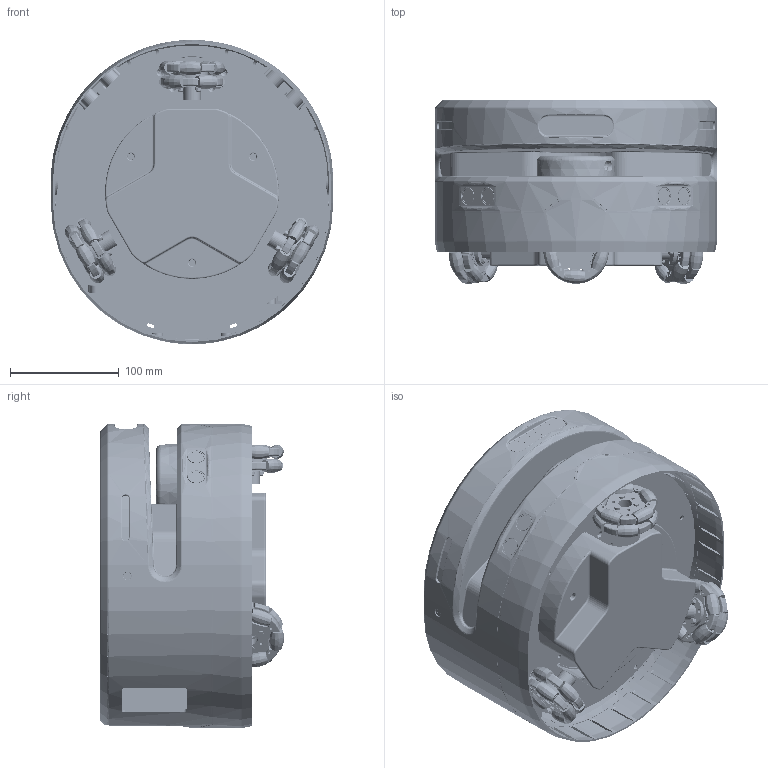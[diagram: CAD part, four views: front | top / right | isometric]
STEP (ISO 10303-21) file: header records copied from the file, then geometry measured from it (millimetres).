
FILE_DESCRIPTION (( 'STEP AP203' ), '1' );
FILE_NAME ('Gemini-O_忮綴耀倰恅璃_V1.0.STEP', '2024-07-01T08:17:12', ( '' ), ( '' ), 'SwSTEP 2.0', 'SolidWorks 2018', '' );
FILE_SCHEMA (( 'CONFIG_CONTROL_DESIGN' ));
Length unit declared in the file: millimetre
Products named in the file (29): asm_15W_MG540_motor_module_全向轮; User_Library-Amass_MR30-FB^J2_蛌諉啣(2)_蛌諉啣; hdmi諉芛; User_Library-Amass_MR30-FB^J3_蛌諉啣(2)_蛌諉啣; 閉汒疏耀輸; DC諉諳; mini_base_board_upper_1126; YiJia_LED_button_blue_M16mm; 菁欶; 60quanxiagnlun; J1^蛌諉啣(2)_蛌諉啣; Board^蛌諉啣(2)_蛌諉啣; asm_YiJia_LED_button_blue_M16mm_PCB; house耀倰; led_腑湍; Gemini-O_忮綴耀倰恅璃_V1.0; J3^蛌諉啣(2)_蛌諉啣; EAI_G7; 噩え; USB扜砉芛; usb諉諳; J2^蛌諉啣(2)_蛌諉啣; encoder; 萇講珆尨0421; 蛌諉啣; 蛌諉啣(2)^蛌諉啣; User_Library-Amass_MR30-FB^J1_蛌諉啣(2)_蛌諉啣; jetson_nano_扜砉芛; mini_base_board_under_全向轮_1126
Assembly tree (32 placements, depth 5):
  Gemini-O_忮綴耀倰恅璃_V1.0
    mini_base_board_under_全向轮_1126
    asm_15W_MG540_motor_module_全向轮  x3
      encoder
      60quanxiagnlun
    菁欶
    mini_base_board_upper_1126
    led_腑湍  x2
    噩え
    萇講珆尨0421
    asm_YiJia_LED_button_blue_M16mm_PCB
      YiJia_LED_button_blue_M16mm
    DC諉諳
    usb諉諳
    hdmi諉芛
    蛌諉啣
      蛌諉啣(2)^蛌諉啣
        J1^蛌諉啣(2)_蛌諉啣
          User_Library-Amass_MR30-FB^J1_蛌諉啣(2)_蛌諉啣
        J2^蛌諉啣(2)_蛌諉啣
          User_Library-Amass_MR30-FB^J2_蛌諉啣(2)_蛌諉啣
        J3^蛌諉啣(2)_蛌諉啣
          User_Library-Amass_MR30-FB^J3_蛌諉啣(2)_蛌諉啣
        Board^蛌諉啣(2)_蛌諉啣
    閉汒疏耀輸  x2
    USB扜砉芛
    jetson_nano_扜砉芛
    EAI_G7
    house耀倰
Bounding box: 260 x 169.24 x 280 mm (x, y, z)
Volume: 708383.9 mm3; surface area: 794833.5 mm2
Topology: 32 solids, 178 shells, 7575 faces, 22298 edges, 15031 vertices
Faces by surface type: bspline 3259, plane 2292, cylinder 1547, torus 239, cone 233, sphere 5
Full cylindrical faces by diameter (mm): 0.9 x12, 1 x14, 1.004 x1, 1.2 x4, 1.5 x10, 1.6 x15, 1.9 x9, 2 x11, 2.05 x2, 2.2 x4, 2.5 x98, 2.625 x4, 3 x2, 3.4 x15, 3.5 x21, 3.65 x1, 4 x6, 4.5 x8, 5 x1, 6 x7, 6.5 x1, 7 x1, 7.1 x4, 7.5 x2, 7.7 x3, 8 x4, 9 x1, 9.1 x1, 9.5 x1, 9.7 x1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
Entity records: 239206 total; most frequent: CARTESIAN_POINT 112683, ORIENTED_EDGE 29155, DIRECTION 19018, EDGE_CURVE 14887, VERTEX_POINT 10152, AXIS2_PLACEMENT_3D 7301, EDGE_LOOP 6895, B_SPLINE_CURVE_WITH_KNOTS 6631
